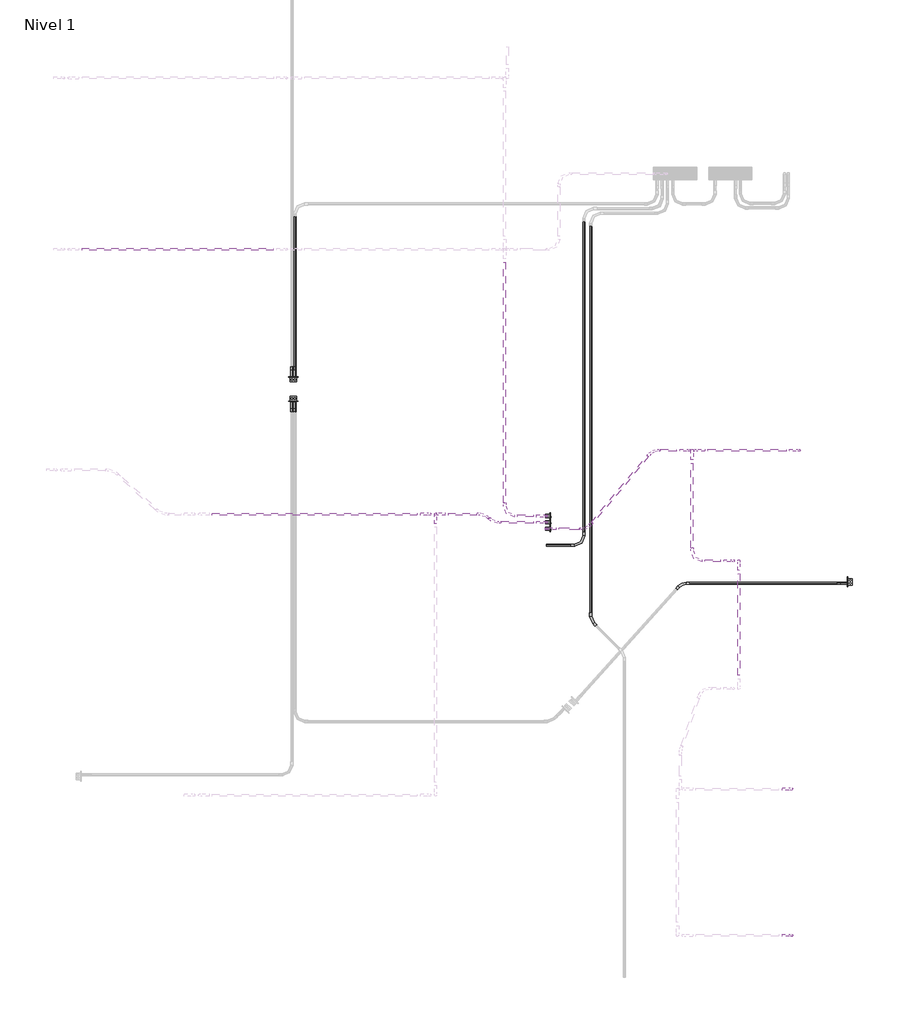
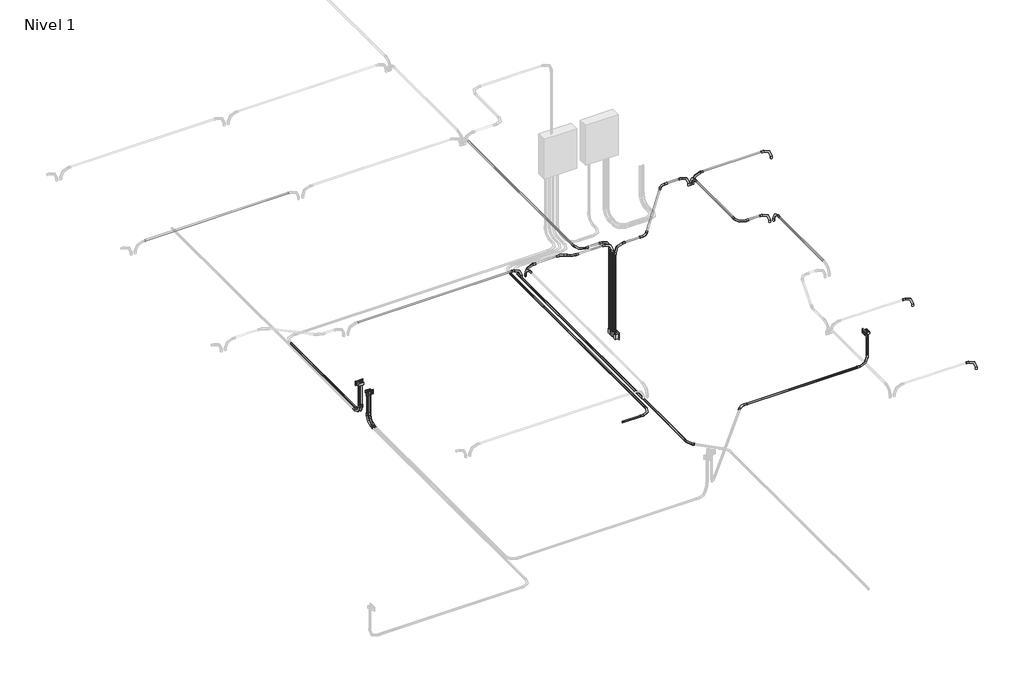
# One storey, part 2 of 4: 28 cable carrier fittings, 27 cable carrier segments, 3 proxies, 3 switching devices.
"""IFC4 building model written with IfcOpenShell, lengths in millimetres."""

from ifc_helpers import new_model, si_unit, point, frame, frame_2d, origin, place, context, project, spatial, circle_curve, trimmed, segment, composite_curve, outline, extrude, transform, mapped, element, save
from components import gfci_180f1b41, m_codo_de_tubo_extremo_liso_pvc_9da73e12, m_codo_de_tubo_extremo_liso_pvc_9b9dffae, m_codo_de_tubo_extremo_liso_pvc_b355e40d, m_codo_de_tubo_extremo_liso_pvc_102f0f41, m_codo_de_tubo_extremo_liso_pvc_374b0c94, m_codo_de_tubo_extremo_liso_pvc_5925479e, switching_device_22fed34b

model = new_model("IFC4")

# Units and contexts
model_context = context("Model", 3, world=origin())
ifc_project = project(units=[si_unit("LENGTHUNIT", "METRE", prefix="MILLI")], contexts=[model_context])

# Site, building, storey
site = spatial("IfcSite", under=ifc_project)
building = spatial("IfcBuilding", under=site)
storey = spatial("IfcBuildingStorey", under=building, Name="Nivel 1", Elevation=0.0)

# Proxies
placement = place(None, origin())
gfci_shape = gfci_180f1b41(model_context)
element("IfcBuildingElementProxy", 1, Name="Tomacorriente doble 220V : GFCI", ObjectType="Tomacorriente doble 220V : GFCI", at=placement, inside=storey, context=model_context, shape_type="MappedRepresentation", body=[
    mapped(gfci_shape, transform((2635.9862267, 7015.0, 400.0), x_axis=(0.0, 0.0, 1.0), y_axis=(1.0, 0.0, 0.0), z_axis=(0.0, 1.0, 0.0))),
])
element("IfcBuildingElementProxy", 2, Name="Tomacorriente doble 220V : GFCI", ObjectType="Tomacorriente doble 220V : GFCI", at=placement, inside=storey, context=model_context, shape_type="MappedRepresentation", body=[
    mapped(gfci_shape, transform((2635.9862267, 6735.0, 400.0), x_axis=(0.0, 0.0, 1.0), y_axis=(-1.0, 0.0, 0.0), z_axis=(0.0, -1.0, 0.0))),
])
element("IfcBuildingElementProxy", 3, Name="Tomacorriente doble 220V : GFCI", ObjectType="Tomacorriente doble 220V : GFCI", at=placement, inside=storey, context=model_context, shape_type="MappedRepresentation", body=[
    mapped(gfci_shape, transform((9150.0, 4612.3876482, 400.0), x_axis=(0.0, 0.0, 1.0), y_axis=(0.0, 1.0, 0.0), z_axis=(-1.0, 0.0, 0.0))),
])

# Cable carrier fittings
m_codo_de_tubo_extremo_liso_pvc_shape = m_codo_de_tubo_extremo_liso_pvc_9da73e12(model_context)
element("IfcCableCarrierFitting", 4, ObjectType="M_Codo de tubo - Extremo liso - PVC : CODO POTENCIA", at=placement, inside=storey, context=model_context, shape_type="MappedRepresentation", body=[
    mapped(m_codo_de_tubo_extremo_liso_pvc_shape, transform((9179.6371118, 4594.3558284, -120.0), x_axis=(0.0, 0.0, -1.0), y_axis=(-1.0, 0.0, 0.0), z_axis=(0.0, 1.0, 0.0))),
])
element("IfcCableCarrierFitting", 5, ObjectType="M_Codo de tubo - Extremo liso - PVC : CODO POTENCIA", at=placement, inside=storey, context=model_context, shape_type="MappedRepresentation", body=[
    mapped(m_codo_de_tubo_extremo_liso_pvc_shape, transform((2654.0180466, 6764.6371118, -99.99), x_axis=(0.0, 0.0, -1.0), y_axis=(0.0, -1.0, 0.0), z_axis=(-1.0, 0.0, 0.0))),
])
element("IfcCableCarrierFitting", 6, ObjectType="M_Codo de tubo - Extremo liso - PVC : CODO POTENCIA", at=placement, inside=storey, context=model_context, shape_type="MappedRepresentation", body=[
    mapped(m_codo_de_tubo_extremo_liso_pvc_shape, transform((2617.9544069, 6764.6371118, -99.99), x_axis=(0.0, 0.0, -1.0), y_axis=(0.0, -1.0, 0.0), z_axis=(-1.0, 0.0, 0.0))),
])
element("IfcCableCarrierFitting", 7, ObjectType="M_Codo de tubo - Extremo liso - PVC : CODO POTENCIA", at=placement, inside=storey, context=model_context, shape_type="MappedRepresentation", body=[
    mapped(m_codo_de_tubo_extremo_liso_pvc_shape, transform((2654.0180466, 6985.3628882, -99.99), x_axis=(0.0, 0.0, -1.0), y_axis=(0.0, 1.0, 0.0), z_axis=(1.0, 0.0, 0.0))),
])
element("IfcCableCarrierFitting", 8, ObjectType="M_Codo de tubo - Extremo liso - PVC : CODO POTENCIA", at=placement, inside=storey, context=model_context, shape_type="MappedRepresentation", body=[
    mapped(m_codo_de_tubo_extremo_liso_pvc_shape, transform((2617.9544069, 6985.3628882, -99.99), x_axis=(0.0, 0.0, -1.0), y_axis=(0.0, 1.0, 0.0), z_axis=(1.0, 0.0, 0.0))),
])
element("IfcCableCarrierFitting", 9, ObjectType="M_Codo de tubo - Extremo liso - PVC : CODO POTENCIA", at=placement, inside=storey, context=model_context, shape_type="MappedRepresentation", body=[
    mapped(m_codo_de_tubo_extremo_liso_pvc_shape, transform((6050.094316, 5040.8495563, -99.99), x_axis=(1.0, 0.0, 0.0), y_axis=(0.0, 1.0, 0.0), z_axis=(0.0, 0.0, 1.0))),
])
m_codo_de_tubo_extremo_liso_pvc_2_shape = m_codo_de_tubo_extremo_liso_pvc_9b9dffae(model_context)
element("IfcCableCarrierFitting", 10, ObjectType="M_Codo de tubo - Extremo liso - PVC : CODO POTENCIA", at=placement, inside=storey, context=model_context, shape_type="MappedRepresentation", body=[
    mapped(m_codo_de_tubo_extremo_liso_pvc_2_shape, transform((7200.6822702, 4594.3558284, -120.0), x_axis=(-1.0, 0.0, 0.0), y_axis=(0.0, -1.0, 0.0), z_axis=(0.0, 0.0, 1.0))),
])
m_codo_de_tubo_extremo_liso_pvc_3_shape = m_codo_de_tubo_extremo_liso_pvc_b355e40d(model_context)
element("IfcCableCarrierFitting", 11, ObjectType="M_Codo de tubo - Extremo liso - PVC : CODO POTENCIA", at=placement, inside=storey, context=model_context, shape_type="MappedRepresentation", body=[
    mapped(m_codo_de_tubo_extremo_liso_pvc_3_shape, transform((6130.094316, 4160.8495563, -99.99), x_axis=(0.0, -1.0, 0.0), y_axis=(1.0, 0.0, 0.0), z_axis=(0.0, 0.0, 1.0))),
])
element("IfcCableCarrierFitting", 12, ObjectType="M_Codo de tubo - Extremo liso - PVC : CODO ILUMINACION", at=placement, inside=storey, context=model_context, shape_type="MappedRepresentation", body=[
    mapped(m_codo_de_tubo_extremo_liso_pvc_shape, transform((7355.0205888, 6157.2147533, 2700.0), x_axis=(0.0, 0.0, 1.0), y_axis=(1.0, 0.0, 0.0), z_axis=(0.0, 1.0, 0.0))),
])
element("IfcCableCarrierFitting", 13, ObjectType="M_Codo de tubo - Extremo liso - PVC : CODO ILUMINACION", at=placement, inside=storey, context=model_context, shape_type="MappedRepresentation", body=[
    mapped(m_codo_de_tubo_extremo_liso_pvc_shape, transform((4306.2053493, 5408.2621763, 2700.0), x_axis=(0.0, 0.0, 1.0), y_axis=(0.0, -1.0, 0.0), z_axis=(1.0, 0.0, 0.0))),
])
element("IfcCableCarrierFitting", 14, ObjectType="M_Codo de tubo - Extremo liso - PVC : CODO ILUMINACION", at=placement, inside=storey, context=model_context, shape_type="MappedRepresentation", body=[
    mapped(m_codo_de_tubo_extremo_liso_pvc_shape, transform((5606.8617051, 5311.2868247, 2700.0), x_axis=(0.0, 0.0, 1.0), y_axis=(-1.0, 0.0, 0.0), z_axis=(0.0, -1.0, 0.0))),
])
element("IfcCableCarrierFitting", 15, ObjectType="M_Codo de tubo - Extremo liso - PVC : CODO ILUMINACION", at=placement, inside=storey, context=model_context, shape_type="MappedRepresentation", body=[
    mapped(m_codo_de_tubo_extremo_liso_pvc_shape, transform((5118.2146465, 5386.2868247, 2700.0), x_axis=(0.0, -1.0, 0.0), y_axis=(1.0, 0.0, 0.0), z_axis=(0.0, 0.0, 1.0))),
])
element("IfcCableCarrierFitting", 16, ObjectType="M_Codo de tubo - Extremo liso - PVC : CODO ILUMINACION", at=placement, inside=storey, context=model_context, shape_type="MappedRepresentation", body=[
    mapped(m_codo_de_tubo_extremo_liso_pvc_shape, transform((5606.8617051, 5386.2868247, 2700.0), x_axis=(0.0, 0.0, 1.0), y_axis=(-1.0, 0.0, 0.0), z_axis=(0.0, -1.0, 0.0))),
])
element("IfcCableCarrierFitting", 17, ObjectType="M_Codo de tubo - Extremo liso - PVC : CODO ILUMINACION", at=placement, inside=storey, context=model_context, shape_type="MappedRepresentation", body=[
    mapped(m_codo_de_tubo_extremo_liso_pvc_shape, transform((4305.7210996, 5408.0026384, 2700.0), x_axis=(0.0, 0.0, 1.0), y_axis=(1.0, 0.0, 0.0), z_axis=(0.0, 1.0, 0.0))),
])
element("IfcCableCarrierFitting", 18, ObjectType="M_Codo de tubo - Extremo liso - PVC : CODO ILUMINACION", at=placement, inside=storey, context=model_context, shape_type="MappedRepresentation", body=[
    mapped(m_codo_de_tubo_extremo_liso_pvc_shape, transform((5606.8617051, 5236.2868247, 2700.0), x_axis=(0.0, 0.0, 1.0), y_axis=(1.0, 0.0, 0.0), z_axis=(0.0, 1.0, 0.0))),
])
element("IfcCableCarrierFitting", 19, ObjectType="M_Codo de tubo - Extremo liso - PVC : CODO ILUMINACION", at=placement, inside=storey, context=model_context, shape_type="MappedRepresentation", body=[
    mapped(m_codo_de_tubo_extremo_liso_pvc_shape, transform((7869.7444512, 4860.2823345, 2700.0), x_axis=(0.0, 0.0, 1.0), y_axis=(0.0, -1.0, 0.0), z_axis=(1.0, 0.0, 0.0))),
])
element("IfcCableCarrierFitting", 20, ObjectType="M_Codo de tubo - Extremo liso - PVC : CODO ILUMINACION", at=placement, inside=storey, context=model_context, shape_type="MappedRepresentation", body=[
    mapped(m_codo_de_tubo_extremo_liso_pvc_shape, transform((7320.1241291, 6157.2147533, 2700.0), x_axis=(0.0, 0.0, 1.0), y_axis=(0.0, -1.0, 0.0), z_axis=(1.0, 0.0, 0.0))),
])
element("IfcCableCarrierFitting", 21, ObjectType="M_Codo de tubo - Extremo liso - PVC : CODO ILUMINACION", at=placement, inside=storey, context=model_context, shape_type="MappedRepresentation", body=[
    mapped(m_codo_de_tubo_extremo_liso_pvc_shape, transform((7320.1241291, 4860.2823345, 2700.0), x_axis=(0.0, -1.0, 0.0), y_axis=(1.0, 0.0, 0.0), z_axis=(0.0, 0.0, 1.0))),
])
m_codo_de_tubo_extremo_liso_pvc_4_shape = m_codo_de_tubo_extremo_liso_pvc_102f0f41(model_context)
element("IfcCableCarrierFitting", 22, ObjectType="M_Codo de tubo - Extremo liso - PVC : CODO ILUMINACION", at=placement, inside=storey, context=model_context, shape_type="MappedRepresentation", body=[
    mapped(m_codo_de_tubo_extremo_liso_pvc_4_shape, transform((4242.2356318, 5408.0026384, 2700.0), x_axis=(0.0, 0.0, 1.0), y_axis=(1.0, 0.0, 0.0), z_axis=(0.0, 1.0, 0.0))),
])
element("IfcCableCarrierFitting", 23, ObjectType="M_Codo de tubo - Extremo liso - PVC : CODO ILUMINACION", at=placement, inside=storey, context=model_context, shape_type="MappedRepresentation", body=[
    mapped(m_codo_de_tubo_extremo_liso_pvc_4_shape, transform((7291.535121, 6157.2147533, 2700.0), x_axis=(0.0, 0.0, 1.0), y_axis=(1.0, 0.0, 0.0), z_axis=(0.0, 1.0, 0.0))),
])
element("IfcCableCarrierFitting", 24, ObjectType="M_Codo de tubo - Extremo liso - PVC : CODO ILUMINACION", at=placement, inside=storey, context=model_context, shape_type="MappedRepresentation", body=[
    mapped(m_codo_de_tubo_extremo_liso_pvc_4_shape, transform((8577.7631986, 6157.2147533, 2700.0), x_axis=(0.0, 0.0, 1.0), y_axis=(1.0, 0.0, 0.0), z_axis=(0.0, 1.0, 0.0))),
])
element("IfcCableCarrierFitting", 25, ObjectType="M_Codo de tubo - Extremo liso - PVC : CODO ILUMINACION", at=placement, inside=storey, context=model_context, shape_type="MappedRepresentation", body=[
    mapped(m_codo_de_tubo_extremo_liso_pvc_4_shape, transform((8493.1840961, 459.2645251, 2700.0), x_axis=(0.0, 0.0, 1.0), y_axis=(1.0, 0.0, 0.0), z_axis=(0.0, 1.0, 0.0))),
])
element("IfcCableCarrierFitting", 26, ObjectType="M_Codo de tubo - Extremo liso - PVC : CODO ILUMINACION", at=placement, inside=storey, context=model_context, shape_type="MappedRepresentation", body=[
    mapped(m_codo_de_tubo_extremo_liso_pvc_4_shape, transform((8493.1840961, 2178.606872, 2700.0), x_axis=(0.0, 0.0, 1.0), y_axis=(1.0, 0.0, 0.0), z_axis=(0.0, 1.0, 0.0))),
])
element("IfcCableCarrierFitting", 27, ObjectType="M_Codo de tubo - Extremo liso - PVC : CODO ILUMINACION", at=placement, inside=storey, context=model_context, shape_type="MappedRepresentation", body=[
    mapped(m_codo_de_tubo_extremo_liso_pvc_4_shape, transform((7806.2589834, 4860.2823345, 2700.0), x_axis=(0.0, 0.0, 1.0), y_axis=(1.0, 0.0, 0.0), z_axis=(0.0, 1.0, 0.0))),
])
m_codo_de_tubo_extremo_liso_pvc_5_shape = m_codo_de_tubo_extremo_liso_pvc_374b0c94(model_context)
element("IfcCableCarrierFitting", 28, ObjectType="M_Codo de tubo - Extremo liso - PVC : CODO ILUMINACION", at=placement, inside=storey, context=model_context, shape_type="MappedRepresentation", body=[
    mapped(m_codo_de_tubo_extremo_liso_pvc_5_shape, transform((4996.8617051, 5311.2868247, 2700.0), x_axis=(0.7995217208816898, -0.6006371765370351, 0.0), y_axis=(0.6006371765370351, 0.7995217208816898, 0.0), z_axis=(0.0, 0.0, 1.0))),
])
element("IfcCableCarrierFitting", 29, ObjectType="M_Codo de tubo - Extremo liso - PVC : CODO ILUMINACION", at=placement, inside=storey, context=model_context, shape_type="MappedRepresentation", body=[
    mapped(m_codo_de_tubo_extremo_liso_pvc_5_shape, transform((4868.1210996, 5408.0026384, 2700.0), x_axis=(-0.7995217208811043, 0.6006371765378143, 0.0), y_axis=(-0.6006371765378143, -0.7995217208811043, 0.0), z_axis=(0.0, 0.0, 1.0))),
])
m_codo_de_tubo_extremo_liso_pvc_6_shape = m_codo_de_tubo_extremo_liso_pvc_5925479e(model_context)
element("IfcCableCarrierFitting", 30, ObjectType="M_Codo de tubo - Extremo liso - PVC : CODO ILUMINACION", at=placement, inside=storey, context=model_context, shape_type="MappedRepresentation", body=[
    mapped(m_codo_de_tubo_extremo_liso_pvc_6_shape, transform((6859.135121, 6157.2147533, 2700.0), x_axis=(-1.0, 0.0, 0.0), y_axis=(0.0, -1.0, 0.0), z_axis=(0.0, 0.0, 1.0))),
])
element("IfcCableCarrierFitting", 31, ObjectType="M_Codo de tubo - Extremo liso - PVC : CODO ILUMINACION", at=placement, inside=storey, context=model_context, shape_type="MappedRepresentation", body=[
    mapped(m_codo_de_tubo_extremo_liso_pvc_6_shape, transform((6086.3848357, 5236.2868247, 2700.0), x_axis=(1.0, 0.0, 0.0), y_axis=(0.0, 1.0, 0.0), z_axis=(0.0, 0.0, 1.0))),
])

# Cable carrier segments
element("IfcCableCarrierSegment", 32, ObjectType="PVC-SEL, POTENCIA", at=placement, inside=storey, context=model_context, shape_type="SweptSolid", body=[
    extrude(outline(composite_curve([segment(trimmed(circle_curve(frame_2d((4594.3558284, -120.0)), 11.71), [point((4606.0658284, -120.0))], [point((4594.3558284, -131.71))], False, "CARTESIAN"), True, "CONTINUOUS"), segment(trimmed(circle_curve(frame_2d((4594.3558284, -120.0)), 11.71), [point((4594.3558284, -131.71))], [point((4582.6458284, -120.0))], False, "CARTESIAN"), True, "CONTINUOUS"), segment(trimmed(circle_curve(frame_2d((4594.3558284, -120.0)), 11.71), [point((4582.6458284, -120.0))], [point((4594.3558284, -108.29))], False, "CARTESIAN"), True, "CONTINUOUS"), segment(trimmed(circle_curve(frame_2d((4594.3558284, -120.0)), 11.71), [point((4594.3558284, -108.29))], [point((4606.0658284, -120.0))], False, "CARTESIAN"), True, "CONTINUOUS")], self_intersect=False)), frame((7289.671909, 0.0, 0.0), z_axis=(1.0, 0.0, 0.0), x_axis=(0.0, 1.0, 0.0)), (0.0, 0.0, 1.0), 1737.5652028),
])
element("IfcCableCarrierSegment", 33, ObjectType="PVC-SEL, POTENCIA", at=placement, inside=storey, context=model_context, shape_type="SweptSolid", body=[
    extrude(outline(composite_curve([segment(trimmed(circle_curve(frame_2d((9179.6371118, 4594.3558284)), 11.71), [point((9191.3471118, 4594.3558284))], [point((9179.6371118, 4582.6458284))], False, "CARTESIAN"), True, "CONTINUOUS"), segment(trimmed(circle_curve(frame_2d((9179.6371118, 4594.3558284)), 11.71), [point((9179.6371118, 4582.6458284))], [point((9167.9271118, 4594.3558284))], False, "CARTESIAN"), True, "CONTINUOUS"), segment(trimmed(circle_curve(frame_2d((9179.6371118, 4594.3558284)), 11.71), [point((9167.9271118, 4594.3558284))], [point((9179.6371118, 4606.0658284))], False, "CARTESIAN"), True, "CONTINUOUS"), segment(trimmed(circle_curve(frame_2d((9179.6371118, 4594.3558284)), 11.71), [point((9179.6371118, 4606.0658284))], [point((9191.3471118, 4594.3558284))], False, "CARTESIAN"), True, "CONTINUOUS")], self_intersect=False)), frame((0.0, 0.0, 32.4), z_axis=(0.0, 0.0, 1.0), x_axis=(1.0, 0.0, 0.0)), (0.0, 0.0, 1.0), 347.3020537),
])
element("IfcCableCarrierSegment", 34, ObjectType="PVC-SEL, POTENCIA", at=placement, inside=storey, context=model_context, shape_type="SweptSolid", body=[
    extrude(outline(composite_curve([segment(trimmed(circle_curve(frame_2d((2654.0180466, 6764.6371118)), 11.71), [point((2665.7280466, 6764.6371118))], [point((2654.0180466, 6752.9271118))], False, "CARTESIAN"), True, "CONTINUOUS"), segment(trimmed(circle_curve(frame_2d((2654.0180466, 6764.6371118)), 11.71), [point((2654.0180466, 6752.9271118))], [point((2642.3080466, 6764.6371118))], False, "CARTESIAN"), True, "CONTINUOUS"), segment(trimmed(circle_curve(frame_2d((2654.0180466, 6764.6371118)), 11.71), [point((2642.3080466, 6764.6371118))], [point((2654.0180466, 6776.3471118))], False, "CARTESIAN"), True, "CONTINUOUS"), segment(trimmed(circle_curve(frame_2d((2654.0180466, 6764.6371118)), 11.71), [point((2654.0180466, 6776.3471118))], [point((2665.7280466, 6764.6371118))], False, "CARTESIAN"), True, "CONTINUOUS")], self_intersect=False)), frame((0.0, 0.0, 52.41), z_axis=(0.0, 0.0, 1.0), x_axis=(1.0, 0.0, 0.0)), (0.0, 0.0, 1.0), 327.2920537),
])
element("IfcCableCarrierSegment", 35, ObjectType="PVC-SEL, POTENCIA", at=placement, inside=storey, context=model_context, shape_type="SweptSolid", body=[
    extrude(outline(composite_curve([segment(trimmed(circle_curve(frame_2d((2617.9544069, 6764.6371118)), 11.71), [point((2629.6644069, 6764.6371118))], [point((2617.9544069, 6752.9271118))], False, "CARTESIAN"), True, "CONTINUOUS"), segment(trimmed(circle_curve(frame_2d((2617.9544069, 6764.6371118)), 11.71), [point((2617.9544069, 6752.9271118))], [point((2606.2444069, 6764.6371118))], False, "CARTESIAN"), True, "CONTINUOUS"), segment(trimmed(circle_curve(frame_2d((2617.9544069, 6764.6371118)), 11.71), [point((2606.2444069, 6764.6371118))], [point((2617.9544069, 6776.3471118))], False, "CARTESIAN"), True, "CONTINUOUS"), segment(trimmed(circle_curve(frame_2d((2617.9544069, 6764.6371118)), 11.71), [point((2617.9544069, 6776.3471118))], [point((2629.6644069, 6764.6371118))], False, "CARTESIAN"), True, "CONTINUOUS")], self_intersect=False)), frame((0.0, 0.0, 52.41), z_axis=(0.0, 0.0, 1.0), x_axis=(1.0, 0.0, 0.0)), (0.0, 0.0, 1.0), 327.2920537),
])
element("IfcCableCarrierSegment", 36, ObjectType="PVC-SEL, POTENCIA", at=placement, inside=storey, context=model_context, shape_type="SweptSolid", body=[
    extrude(outline(composite_curve([segment(trimmed(circle_curve(frame_2d((-99.99, 2654.0180466)), 11.71), [point((-99.99, 2642.3080466))], [point((-111.7, 2654.0180466))], False, "CARTESIAN"), True, "CONTINUOUS"), segment(trimmed(circle_curve(frame_2d((-99.99, 2654.0180466)), 11.71), [point((-111.7, 2654.0180466))], [point((-99.99, 2665.7280466))], False, "CARTESIAN"), True, "CONTINUOUS"), segment(trimmed(circle_curve(frame_2d((-99.99, 2654.0180466)), 11.71), [point((-99.99, 2665.7280466))], [point((-88.28, 2654.0180466))], False, "CARTESIAN"), True, "CONTINUOUS"), segment(trimmed(circle_curve(frame_2d((-99.99, 2654.0180466)), 11.71), [point((-88.28, 2654.0180466))], [point((-99.99, 2642.3080466))], False, "CARTESIAN"), True, "CONTINUOUS")], self_intersect=False)), frame((0.0, 7137.7628882, 0.0), z_axis=(0.0, 1.0, 0.0), x_axis=(0.0, 0.0, 1.0)), (0.0, 0.0, 1.0), 1760.686668),
])
element("IfcCableCarrierSegment", 37, ObjectType="PVC-SEL, POTENCIA", at=placement, inside=storey, context=model_context, shape_type="SweptSolid", body=[
    extrude(outline(composite_curve([segment(trimmed(circle_curve(frame_2d((2654.0180466, 6985.3628882)), 11.71), [point((2665.7280466, 6985.3628882))], [point((2654.0180466, 6973.6528882))], False, "CARTESIAN"), True, "CONTINUOUS"), segment(trimmed(circle_curve(frame_2d((2654.0180466, 6985.3628882)), 11.71), [point((2654.0180466, 6973.6528882))], [point((2642.3080466, 6985.3628882))], False, "CARTESIAN"), True, "CONTINUOUS"), segment(trimmed(circle_curve(frame_2d((2654.0180466, 6985.3628882)), 11.71), [point((2642.3080466, 6985.3628882))], [point((2654.0180466, 6997.0728882))], False, "CARTESIAN"), True, "CONTINUOUS"), segment(trimmed(circle_curve(frame_2d((2654.0180466, 6985.3628882)), 11.71), [point((2654.0180466, 6997.0728882))], [point((2665.7280466, 6985.3628882))], False, "CARTESIAN"), True, "CONTINUOUS")], self_intersect=False)), frame((0.0, 0.0, 52.41), z_axis=(0.0, 0.0, 1.0), x_axis=(1.0, 0.0, 0.0)), (0.0, 0.0, 1.0), 327.2920537),
])
element("IfcCableCarrierSegment", 38, ObjectType="PVC-SEL, POTENCIA", at=placement, inside=storey, context=model_context, shape_type="SweptSolid", body=[
    extrude(outline(composite_curve([segment(trimmed(circle_curve(frame_2d((2617.9544069, 6985.3628882)), 11.71), [point((2629.6644069, 6985.3628882))], [point((2617.9544069, 6973.6528882))], False, "CARTESIAN"), True, "CONTINUOUS"), segment(trimmed(circle_curve(frame_2d((2617.9544069, 6985.3628882)), 11.71), [point((2617.9544069, 6973.6528882))], [point((2606.2444069, 6985.3628882))], False, "CARTESIAN"), True, "CONTINUOUS"), segment(trimmed(circle_curve(frame_2d((2617.9544069, 6985.3628882)), 11.71), [point((2606.2444069, 6985.3628882))], [point((2617.9544069, 6997.0728882))], False, "CARTESIAN"), True, "CONTINUOUS"), segment(trimmed(circle_curve(frame_2d((2617.9544069, 6985.3628882)), 11.71), [point((2617.9544069, 6997.0728882))], [point((2629.6644069, 6985.3628882))], False, "CARTESIAN"), True, "CONTINUOUS")], self_intersect=False)), frame((0.0, 0.0, 52.41), z_axis=(0.0, 0.0, 1.0), x_axis=(1.0, 0.0, 0.0)), (0.0, 0.0, 1.0), 327.2920537),
])
element("IfcCableCarrierSegment", 39, ObjectType="PVC-SEL, POTENCIA", at=placement, inside=storey, context=model_context, shape_type="SweptSolid", body=[
    extrude(outline(composite_curve([segment(trimmed(circle_curve(frame_2d((-99.99, 6050.094316)), 11.71), [point((-99.99, 6038.384316))], [point((-111.7, 6050.094316))], False, "CARTESIAN"), True, "CONTINUOUS"), segment(trimmed(circle_curve(frame_2d((-99.99, 6050.094316)), 11.71), [point((-111.7, 6050.094316))], [point((-99.99, 6061.804316))], False, "CARTESIAN"), True, "CONTINUOUS"), segment(trimmed(circle_curve(frame_2d((-99.99, 6050.094316)), 11.71), [point((-99.99, 6061.804316))], [point((-88.28, 6050.094316))], False, "CARTESIAN"), True, "CONTINUOUS"), segment(trimmed(circle_curve(frame_2d((-99.99, 6050.094316)), 11.71), [point((-88.28, 6050.094316))], [point((-99.99, 6038.384316))], False, "CARTESIAN"), True, "CONTINUOUS")], self_intersect=False)), frame((0.0, 5193.2495563, 0.0), z_axis=(0.0, 1.0, 0.0), x_axis=(0.0, 0.0, 1.0)), (0.0, 0.0, 1.0), 3650.2),
])
element("IfcCableCarrierSegment", 40, ObjectType="PVC-SEL, POTENCIA", at=placement, inside=storey, context=model_context, shape_type="SweptSolid", body=[
    extrude(outline(composite_curve([segment(trimmed(circle_curve(frame_2d((5040.8495563, -99.99)), 11.71), [point((5052.5595563, -99.99))], [point((5040.8495563, -111.7))], False, "CARTESIAN"), True, "CONTINUOUS"), segment(trimmed(circle_curve(frame_2d((5040.8495563, -99.99)), 11.71), [point((5040.8495563, -111.7))], [point((5029.1395563, -99.99))], False, "CARTESIAN"), True, "CONTINUOUS"), segment(trimmed(circle_curve(frame_2d((5040.8495563, -99.99)), 11.71), [point((5029.1395563, -99.99))], [point((5040.8495563, -88.28))], False, "CARTESIAN"), True, "CONTINUOUS"), segment(trimmed(circle_curve(frame_2d((5040.8495563, -99.99)), 11.71), [point((5040.8495563, -88.28))], [point((5052.5595563, -99.99))], False, "CARTESIAN"), True, "CONTINUOUS")], self_intersect=False)), frame((5610.094316, 0.0, 0.0), z_axis=(1.0, 0.0, 0.0), x_axis=(0.0, 1.0, 0.0)), (0.0, 0.0, 1.0), 287.6),
])
element("IfcCableCarrierSegment", 41, ObjectType="PVC-SEL, POTENCIA", at=placement, inside=storey, context=model_context, shape_type="SweptSolid", body=[
    extrude(outline(composite_curve([segment(trimmed(circle_curve(frame_2d((-99.99, 6130.094316)), 11.71), [point((-99.99, 6118.384316))], [point((-111.7, 6130.094316))], False, "CARTESIAN"), True, "CONTINUOUS"), segment(trimmed(circle_curve(frame_2d((-99.99, 6130.094316)), 11.71), [point((-111.7, 6130.094316))], [point((-99.99, 6141.804316))], False, "CARTESIAN"), True, "CONTINUOUS"), segment(trimmed(circle_curve(frame_2d((-99.99, 6130.094316)), 11.71), [point((-99.99, 6141.804316))], [point((-88.28, 6130.094316))], False, "CARTESIAN"), True, "CONTINUOUS"), segment(trimmed(circle_curve(frame_2d((-99.99, 6130.094316)), 11.71), [point((-88.28, 6130.094316))], [point((-99.99, 6118.384316))], False, "CARTESIAN"), True, "CONTINUOUS")], self_intersect=False)), frame((0.0, 4246.2941664, 0.0), z_axis=(0.0, 1.0, 0.0), x_axis=(0.0, 0.0, 1.0)), (0.0, 0.0, 1.0), 4542.1553898),
])
element("IfcCableCarrierSegment", 42, ObjectType="PVC-SEL ILUMINACION", at=placement, inside=storey, context=model_context, shape_type="SweptSolid", body=[
    extrude(outline(composite_curve([segment(trimmed(circle_curve(frame_2d((8518.256128, 2700.0)), 11.71), [point((8529.966128, 2700.0))], [point((8518.256128, 2688.29))], False, "CARTESIAN"), True, "CONTINUOUS"), segment(trimmed(circle_curve(frame_2d((8518.256128, 2700.0)), 11.71), [point((8518.256128, 2688.29))], [point((8506.546128, 2700.0))], False, "CARTESIAN"), True, "CONTINUOUS"), segment(trimmed(circle_curve(frame_2d((8518.256128, 2700.0)), 11.71), [point((8506.546128, 2700.0))], [point((8518.256128, 2711.71))], False, "CARTESIAN"), True, "CONTINUOUS"), segment(trimmed(circle_curve(frame_2d((8518.256128, 2700.0)), 11.71), [point((8518.256128, 2711.71))], [point((8529.966128, 2700.0))], False, "CARTESIAN"), True, "CONTINUOUS")], self_intersect=False)), frame((151.7188014, 0.0, 0.0), z_axis=(1.0, 0.0, 0.0), x_axis=(0.0, 1.0, 0.0)), (0.0, 0.0, 1.0), 2248.9467939),
])
element("IfcCableCarrierSegment", 43, ObjectType="PVC-SEL ILUMINACION", at=placement, inside=storey, context=model_context, shape_type="SweptSolid", body=[
    extrude(outline(composite_curve([segment(trimmed(circle_curve(frame_2d((5408.0026384, 2700.0)), 11.71), [point((5419.7126384, 2700.0))], [point((5408.0026384, 2688.29))], False, "CARTESIAN"), True, "CONTINUOUS"), segment(trimmed(circle_curve(frame_2d((5408.0026384, 2700.0)), 11.71), [point((5408.0026384, 2688.29))], [point((5396.2926384, 2700.0))], False, "CARTESIAN"), True, "CONTINUOUS"), segment(trimmed(circle_curve(frame_2d((5408.0026384, 2700.0)), 11.71), [point((5396.2926384, 2700.0))], [point((5408.0026384, 2711.71))], False, "CARTESIAN"), True, "CONTINUOUS"), segment(trimmed(circle_curve(frame_2d((5408.0026384, 2700.0)), 11.71), [point((5408.0026384, 2711.71))], [point((5419.7126384, 2700.0))], False, "CARTESIAN"), True, "CONTINUOUS")], self_intersect=False)), frame((1683.7128009, 0.0, 0.0), z_axis=(1.0, 0.0, 0.0), x_axis=(0.0, 1.0, 0.0)), (0.0, 0.0, 1.0), 2406.1228309),
])
element("IfcCableCarrierSegment", 44, ObjectType="PVC-SEL ILUMINACION", at=placement, inside=storey, context=model_context, shape_type="SweptSolid", body=[
    extrude(outline(composite_curve([segment(trimmed(circle_curve(frame_2d((5386.2868247, 2700.0)), 11.71), [point((5374.5768247, 2700.0))], [point((5386.2868247, 2711.71))], False, "CARTESIAN"), True, "CONTINUOUS"), segment(trimmed(circle_curve(frame_2d((5386.2868247, 2700.0)), 11.71), [point((5386.2868247, 2711.71))], [point((5397.9968247, 2700.0))], False, "CARTESIAN"), True, "CONTINUOUS"), segment(trimmed(circle_curve(frame_2d((5386.2868247, 2700.0)), 11.71), [point((5397.9968247, 2700.0))], [point((5386.2868247, 2688.29))], False, "CARTESIAN"), True, "CONTINUOUS"), segment(trimmed(circle_curve(frame_2d((5386.2868247, 2700.0)), 11.71), [point((5386.2868247, 2688.29))], [point((5374.5768247, 2700.0))], False, "CARTESIAN"), True, "CONTINUOUS")], self_intersect=False)), frame((5270.6146465, 0.0, 0.0), z_axis=(1.0, 0.0, 0.0), x_axis=(0.0, 1.0, 0.0)), (0.0, 0.0, 1.0), 183.8470586),
])
element("IfcCableCarrierSegment", 45, ObjectType="PVC-SEL ILUMINACION", at=placement, inside=storey, context=model_context, shape_type="SweptSolid", body=[
    extrude(outline(composite_curve([segment(trimmed(circle_curve(frame_2d((5606.8617051, 5386.2868247)), 11.71), [point((5595.1517051, 5386.2868247))], [point((5606.8617051, 5397.9968247))], False, "CARTESIAN"), True, "CONTINUOUS"), segment(trimmed(circle_curve(frame_2d((5606.8617051, 5386.2868247)), 11.71), [point((5606.8617051, 5397.9968247))], [point((5618.5717051, 5386.2868247))], False, "CARTESIAN"), True, "CONTINUOUS"), segment(trimmed(circle_curve(frame_2d((5606.8617051, 5386.2868247)), 11.71), [point((5618.5717051, 5386.2868247))], [point((5606.8617051, 5374.5768247))], False, "CARTESIAN"), True, "CONTINUOUS"), segment(trimmed(circle_curve(frame_2d((5606.8617051, 5386.2868247)), 11.71), [point((5606.8617051, 5374.5768247))], [point((5595.1517051, 5386.2868247))], False, "CARTESIAN"), True, "CONTINUOUS")], self_intersect=False)), frame((0.0, 0.0, 1240.2227463), z_axis=(0.0, 0.0, 1.0), x_axis=(1.0, 0.0, 0.0)), (0.0, 0.0, 1.0), 1307.3772537),
])
element("IfcCableCarrierSegment", 46, ObjectType="PVC-SEL ILUMINACION", at=placement, inside=storey, context=model_context, shape_type="SweptSolid", body=[
    extrude(outline(composite_curve([segment(trimmed(circle_curve(frame_2d((5311.2868247, 2700.0)), 11.71), [point((5322.9968247, 2700.0))], [point((5311.2868247, 2688.29))], False, "CARTESIAN"), True, "CONTINUOUS"), segment(trimmed(circle_curve(frame_2d((5311.2868247, 2700.0)), 11.71), [point((5311.2868247, 2688.29))], [point((5299.5768247, 2700.0))], False, "CARTESIAN"), True, "CONTINUOUS"), segment(trimmed(circle_curve(frame_2d((5311.2868247, 2700.0)), 11.71), [point((5299.5768247, 2700.0))], [point((5311.2868247, 2711.71))], False, "CARTESIAN"), True, "CONTINUOUS"), segment(trimmed(circle_curve(frame_2d((5311.2868247, 2700.0)), 11.71), [point((5311.2868247, 2711.71))], [point((5322.9968247, 2700.0))], False, "CARTESIAN"), True, "CONTINUOUS")], self_intersect=False)), frame((5073.1123029, 0.0, 0.0), z_axis=(1.0, 0.0, 0.0), x_axis=(0.0, 1.0, 0.0)), (0.0, 0.0, 1.0), 381.3494023),
])
element("IfcCableCarrierSegment", 47, ObjectType="PVC-SEL ILUMINACION", at=placement, inside=storey, context=model_context, shape_type="SweptSolid", body=[
    extrude(outline(composite_curve([segment(trimmed(circle_curve(frame_2d((5606.8617051, 5311.2868247)), 11.71), [point((5595.1517051, 5311.2868247))], [point((5606.8617051, 5322.9968247))], False, "CARTESIAN"), True, "CONTINUOUS"), segment(trimmed(circle_curve(frame_2d((5606.8617051, 5311.2868247)), 11.71), [point((5606.8617051, 5322.9968247))], [point((5618.5717051, 5311.2868247))], False, "CARTESIAN"), True, "CONTINUOUS"), segment(trimmed(circle_curve(frame_2d((5606.8617051, 5311.2868247)), 11.71), [point((5618.5717051, 5311.2868247))], [point((5606.8617051, 5299.5768247))], False, "CARTESIAN"), True, "CONTINUOUS"), segment(trimmed(circle_curve(frame_2d((5606.8617051, 5311.2868247)), 11.71), [point((5606.8617051, 5299.5768247))], [point((5595.1517051, 5311.2868247))], False, "CARTESIAN"), True, "CONTINUOUS")], self_intersect=False)), frame((0.0, 0.0, 1240.2227463), z_axis=(0.0, 0.0, 1.0), x_axis=(1.0, 0.0, 0.0)), (0.0, 0.0, 1.0), 1307.3772537),
])
element("IfcCableCarrierSegment", 48, ObjectType="PVC-SEL ILUMINACION", at=placement, inside=storey, context=model_context, shape_type="SweptSolid", body=[
    extrude(outline(composite_curve([segment(trimmed(circle_curve(frame_2d((5236.2868247, 2700.0)), 11.71), [point((5247.9968247, 2700.0))], [point((5236.2868247, 2688.29))], False, "CARTESIAN"), True, "CONTINUOUS"), segment(trimmed(circle_curve(frame_2d((5236.2868247, 2700.0)), 11.71), [point((5236.2868247, 2688.29))], [point((5224.5768247, 2700.0))], False, "CARTESIAN"), True, "CONTINUOUS"), segment(trimmed(circle_curve(frame_2d((5236.2868247, 2700.0)), 11.71), [point((5224.5768247, 2700.0))], [point((5236.2868247, 2711.71))], False, "CARTESIAN"), True, "CONTINUOUS"), segment(trimmed(circle_curve(frame_2d((5236.2868247, 2700.0)), 11.71), [point((5236.2868247, 2711.71))], [point((5247.9968247, 2700.0))], False, "CARTESIAN"), True, "CONTINUOUS")], self_intersect=False)), frame((5759.2617051, 0.0, 0.0), z_axis=(1.0, 0.0, 0.0), x_axis=(0.0, 1.0, 0.0)), (0.0, 0.0, 1.0), 235.7241652),
])
element("IfcCableCarrierSegment", 49, ObjectType="PVC-SEL ILUMINACION", at=placement, inside=storey, context=model_context, shape_type="SweptSolid", body=[
    extrude(outline(composite_curve([segment(trimmed(circle_curve(frame_2d((5606.8617051, 5236.2868247)), 11.71), [point((5595.1517051, 5236.2868247))], [point((5606.8617051, 5247.9968247))], False, "CARTESIAN"), True, "CONTINUOUS"), segment(trimmed(circle_curve(frame_2d((5606.8617051, 5236.2868247)), 11.71), [point((5606.8617051, 5247.9968247))], [point((5618.5717051, 5236.2868247))], False, "CARTESIAN"), True, "CONTINUOUS"), segment(trimmed(circle_curve(frame_2d((5606.8617051, 5236.2868247)), 11.71), [point((5618.5717051, 5236.2868247))], [point((5606.8617051, 5224.5768247))], False, "CARTESIAN"), True, "CONTINUOUS"), segment(trimmed(circle_curve(frame_2d((5606.8617051, 5236.2868247)), 11.71), [point((5606.8617051, 5224.5768247))], [point((5595.1517051, 5236.2868247))], False, "CARTESIAN"), True, "CONTINUOUS")], self_intersect=False)), frame((0.0, 0.0, 1240.2227463), z_axis=(0.0, 0.0, 1.0), x_axis=(1.0, 0.0, 0.0)), (0.0, 0.0, 1.0), 1307.3772537),
])
element("IfcCableCarrierSegment", 50, ObjectType="PVC-SEL ILUMINACION", at=placement, inside=storey, context=model_context, shape_type="SweptSolid", body=[
    extrude(outline(composite_curve([segment(trimmed(circle_curve(frame_2d((2700.0, 5118.2146465)), 11.71), [point((2700.0, 5106.5046465))], [point((2688.29, 5118.2146465))], False, "CARTESIAN"), True, "CONTINUOUS"), segment(trimmed(circle_curve(frame_2d((2700.0, 5118.2146465)), 11.71), [point((2688.29, 5118.2146465))], [point((2700.0, 5129.9246465))], False, "CARTESIAN"), True, "CONTINUOUS"), segment(trimmed(circle_curve(frame_2d((2700.0, 5118.2146465)), 11.71), [point((2700.0, 5129.9246465))], [point((2711.71, 5118.2146465))], False, "CARTESIAN"), True, "CONTINUOUS"), segment(trimmed(circle_curve(frame_2d((2700.0, 5118.2146465)), 11.71), [point((2711.71, 5118.2146465))], [point((2700.0, 5106.5046465))], False, "CARTESIAN"), True, "CONTINUOUS")], self_intersect=False)), frame((0.0, 5538.6868247, 0.0), z_axis=(0.0, 1.0, 0.0), x_axis=(0.0, 0.0, 1.0)), (0.0, 0.0, 1.0), 2827.3089949),
])
element("IfcCableCarrierSegment", 51, ObjectType="PVC-SEL ILUMINACION", at=placement, inside=storey, context=model_context, shape_type="SweptSolid", body=[
    extrude(outline(composite_curve([segment(trimmed(circle_curve(frame_2d((5408.0026384, 2700.0)), 11.71), [point((5396.2926384, 2700.0))], [point((5408.0026384, 2711.71))], False, "CARTESIAN"), True, "CONTINUOUS"), segment(trimmed(circle_curve(frame_2d((5408.0026384, 2700.0)), 11.71), [point((5408.0026384, 2711.71))], [point((5419.7126384, 2700.0))], False, "CARTESIAN"), True, "CONTINUOUS"), segment(trimmed(circle_curve(frame_2d((5408.0026384, 2700.0)), 11.71), [point((5419.7126384, 2700.0))], [point((5408.0026384, 2688.29))], False, "CARTESIAN"), True, "CONTINUOUS"), segment(trimmed(circle_curve(frame_2d((5408.0026384, 2700.0)), 11.71), [point((5408.0026384, 2688.29))], [point((5396.2926384, 2700.0))], False, "CARTESIAN"), True, "CONTINUOUS")], self_intersect=False)), frame((4458.1210996, 0.0, 0.0), z_axis=(1.0, 0.0, 0.0), x_axis=(0.0, 1.0, 0.0)), (0.0, 0.0, 1.0), 333.7494023),
])
element("IfcCableCarrierSegment", 52, ObjectType="PVC-SEL ILUMINACION", at=placement, inside=storey, context=model_context, shape_type="SweptSolid", body=[
    extrude(outline(composite_curve([segment(trimmed(circle_curve(frame_2d((0.0, 11.71)), 11.71), [point((11.7100001, 11.71))], [point((0.0, 0.0))], False, "CARTESIAN"), True, "CONTINUOUS"), segment(trimmed(circle_curve(frame_2d((0.0, 11.71)), 11.71), [point((0.0, 0.0))], [point((-11.7099999, 11.71))], False, "CARTESIAN"), True, "CONTINUOUS"), segment(trimmed(circle_curve(frame_2d((0.0, 11.71)), 11.71), [point((-11.7099999, 11.71))], [point((0.0, 23.42))], False, "CARTESIAN"), True, "CONTINUOUS"), segment(trimmed(circle_curve(frame_2d((0.0, 11.71)), 11.71), [point((0.0, 23.42))], [point((11.7100001, 11.71))], False, "CARTESIAN"), True, "CONTINUOUS")], self_intersect=False)), frame((4935.897696, 5357.0857684, 2711.71), z_axis=(-0.7995217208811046, 0.6006371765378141, 0.0), x_axis=(0.6006371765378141, 0.7995217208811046, 0.0)), (0.0, 0.0, 1.0), 8.5208283),
])
element("IfcCableCarrierSegment", 53, ObjectType="PVC-SEL ILUMINACION", at=placement, inside=storey, context=model_context, shape_type="SweptSolid", body=[
    extrude(outline(composite_curve([segment(trimmed(circle_curve(frame_2d((6157.2147533, 2700.0)), 11.71), [point((6168.9247533, 2700.0))], [point((6157.2147533, 2688.29))], False, "CARTESIAN"), True, "CONTINUOUS"), segment(trimmed(circle_curve(frame_2d((6157.2147533, 2700.0)), 11.71), [point((6157.2147533, 2688.29))], [point((6145.5047533, 2700.0))], False, "CARTESIAN"), True, "CONTINUOUS"), segment(trimmed(circle_curve(frame_2d((6157.2147533, 2700.0)), 11.71), [point((6145.5047533, 2700.0))], [point((6157.2147533, 2711.71))], False, "CARTESIAN"), True, "CONTINUOUS"), segment(trimmed(circle_curve(frame_2d((6157.2147533, 2700.0)), 11.71), [point((6157.2147533, 2711.71))], [point((6168.9247533, 2700.0))], False, "CARTESIAN"), True, "CONTINUOUS")], self_intersect=False)), frame((6950.5340863, 0.0, 0.0), z_axis=(1.0, 0.0, 0.0), x_axis=(0.0, 1.0, 0.0)), (0.0, 0.0, 1.0), 188.6010347),
])
element("IfcCableCarrierSegment", 54, ObjectType="PVC-SEL ILUMINACION", at=placement, inside=storey, context=model_context, shape_type="SweptSolid", body=[
    extrude(outline(composite_curve([segment(trimmed(circle_curve(frame_2d((0.0, -11.71)), 11.71), [point((-11.71, -11.71))], [point((0.0, 0.0))], False, "CARTESIAN"), True, "CONTINUOUS"), segment(trimmed(circle_curve(frame_2d((0.0, -11.71)), 11.71), [point((0.0, 0.0))], [point((11.71, -11.71))], False, "CARTESIAN"), True, "CONTINUOUS"), segment(trimmed(circle_curve(frame_2d((0.0, -11.71)), 11.71), [point((11.71, -11.71))], [point((0.0, -23.42))], False, "CARTESIAN"), True, "CONTINUOUS"), segment(trimmed(circle_curve(frame_2d((0.0, -11.71)), 11.71), [point((0.0, -23.42))], [point((-11.71, -11.71))], False, "CARTESIAN"), True, "CONTINUOUS")], self_intersect=False)), frame((6145.1349582, 5306.3024942, 2688.29), z_axis=(0.6427876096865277, 0.7660444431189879, 0.0), x_axis=(0.7660444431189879, -0.6427876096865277, 0.0)), (0.0, 0.0, 1.0), 1019.3881003),
])
element("IfcCableCarrierSegment", 55, ObjectType="PVC-SEL ILUMINACION", at=placement, inside=storey, context=model_context, shape_type="SweptSolid", body=[
    extrude(outline(composite_curve([segment(trimmed(circle_curve(frame_2d((2700.0, 7869.7444512)), 11.71), [point((2700.0, 7858.0344512))], [point((2688.29, 7869.7444512))], False, "CARTESIAN"), True, "CONTINUOUS"), segment(trimmed(circle_curve(frame_2d((2700.0, 7869.7444512)), 11.71), [point((2688.29, 7869.7444512))], [point((2700.0, 7881.4544512))], False, "CARTESIAN"), True, "CONTINUOUS"), segment(trimmed(circle_curve(frame_2d((2700.0, 7869.7444512)), 11.71), [point((2700.0, 7881.4544512))], [point((2711.71, 7869.7444512))], False, "CARTESIAN"), True, "CONTINUOUS"), segment(trimmed(circle_curve(frame_2d((2700.0, 7869.7444512)), 11.71), [point((2711.71, 7869.7444512))], [point((2700.0, 7858.0344512))], False, "CARTESIAN"), True, "CONTINUOUS")], self_intersect=False)), frame((0.0, 3512.6823345, 0.0), z_axis=(0.0, 1.0, 0.0), x_axis=(0.0, 0.0, 1.0)), (0.0, 0.0, 1.0), 1195.2),
])
element("IfcCableCarrierSegment", 56, ObjectType="PVC-SEL ILUMINACION", at=placement, inside=storey, context=model_context, shape_type="SweptSolid", body=[
    extrude(outline(composite_curve([segment(trimmed(circle_curve(frame_2d((2700.0, 7320.1241291)), 11.71), [point((2700.0, 7308.4141291))], [point((2688.29, 7320.1241291))], False, "CARTESIAN"), True, "CONTINUOUS"), segment(trimmed(circle_curve(frame_2d((2700.0, 7320.1241291)), 11.71), [point((2688.29, 7320.1241291))], [point((2700.0, 7331.8341291))], False, "CARTESIAN"), True, "CONTINUOUS"), segment(trimmed(circle_curve(frame_2d((2700.0, 7320.1241291)), 11.71), [point((2700.0, 7331.8341291))], [point((2711.71, 7320.1241291))], False, "CARTESIAN"), True, "CONTINUOUS"), segment(trimmed(circle_curve(frame_2d((2700.0, 7320.1241291)), 11.71), [point((2711.71, 7320.1241291))], [point((2700.0, 7308.4141291))], False, "CARTESIAN"), True, "CONTINUOUS")], self_intersect=False)), frame((0.0, 5012.6823345, 0.0), z_axis=(0.0, 1.0, 0.0), x_axis=(0.0, 0.0, 1.0)), (0.0, 0.0, 1.0), 992.1324188),
])
element("IfcCableCarrierSegment", 57, ObjectType="PVC-SEL ILUMINACION", at=placement, inside=storey, context=model_context, shape_type="SweptSolid", body=[
    extrude(outline(composite_curve([segment(trimmed(circle_curve(frame_2d((4860.2823345, 2700.0)), 11.71), [point((4848.5723345, 2700.0))], [point((4860.2823345, 2711.71))], False, "CARTESIAN"), True, "CONTINUOUS"), segment(trimmed(circle_curve(frame_2d((4860.2823345, 2700.0)), 11.71), [point((4860.2823345, 2711.71))], [point((4871.9923345, 2700.0))], False, "CARTESIAN"), True, "CONTINUOUS"), segment(trimmed(circle_curve(frame_2d((4860.2823345, 2700.0)), 11.71), [point((4871.9923345, 2700.0))], [point((4860.2823345, 2688.29))], False, "CARTESIAN"), True, "CONTINUOUS"), segment(trimmed(circle_curve(frame_2d((4860.2823345, 2700.0)), 11.71), [point((4860.2823345, 2688.29))], [point((4848.5723345, 2700.0))], False, "CARTESIAN"), True, "CONTINUOUS")], self_intersect=False)), frame((7472.5241291, 0.0, 0.0), z_axis=(1.0, 0.0, 0.0), x_axis=(0.0, 1.0, 0.0)), (0.0, 0.0, 1.0), 181.3348543),
])
element("IfcCableCarrierSegment", 58, ObjectType="PVC-SEL ILUMINACION", at=placement, inside=storey, context=model_context, shape_type="SweptSolid", body=[
    extrude(outline(composite_curve([segment(trimmed(circle_curve(frame_2d((6157.2147533, 2700.0)), 11.71), [point((6168.9247533, 2700.0))], [point((6157.2147533, 2688.29))], False, "CARTESIAN"), True, "CONTINUOUS"), segment(trimmed(circle_curve(frame_2d((6157.2147533, 2700.0)), 11.71), [point((6157.2147533, 2688.29))], [point((6145.5047533, 2700.0))], False, "CARTESIAN"), True, "CONTINUOUS"), segment(trimmed(circle_curve(frame_2d((6157.2147533, 2700.0)), 11.71), [point((6145.5047533, 2700.0))], [point((6157.2147533, 2711.71))], False, "CARTESIAN"), True, "CONTINUOUS"), segment(trimmed(circle_curve(frame_2d((6157.2147533, 2700.0)), 11.71), [point((6157.2147533, 2711.71))], [point((6168.9247533, 2700.0))], False, "CARTESIAN"), True, "CONTINUOUS")], self_intersect=False)), frame((7507.4205888, 0.0, 0.0), z_axis=(1.0, 0.0, 0.0), x_axis=(0.0, 1.0, 0.0)), (0.0, 0.0, 1.0), 917.9426099),
])

# Switching devices
switching_device_shape = switching_device_22fed34b(model_context)
element("IfcSwitchingDevice", 59, ObjectType="Interruptor : Tridireccional", at=placement, inside=storey, context=model_context, shape_type="MappedRepresentation", body=[
    mapped(switching_device_shape, transform((5650.0005808, 5236.3366704, 1200.0), x_axis=(0.0, 1.0, 0.0), y_axis=(0.0, 0.0, 1.0), z_axis=(1.0, 0.0, 0.0))),
])
element("IfcSwitchingDevice", 60, ObjectType="Interruptor : Tridireccional", at=placement, inside=storey, context=model_context, shape_type="MappedRepresentation", body=[
    mapped(switching_device_shape, transform((5650.0005808, 5311.3366704, 1200.0), x_axis=(0.0, 1.0, 0.0), y_axis=(0.0, 0.0, 1.0), z_axis=(1.0, 0.0, 0.0))),
])
element("IfcSwitchingDevice", 61, ObjectType="Interruptor : Tridireccional", at=placement, inside=storey, context=model_context, shape_type="MappedRepresentation", body=[
    mapped(switching_device_shape, transform((5650.0005808, 5386.3366704, 1200.0), x_axis=(0.0, 1.0, 0.0), y_axis=(0.0, 0.0, 1.0), z_axis=(1.0, 0.0, 0.0))),
])

save(model, "model.ifc")
